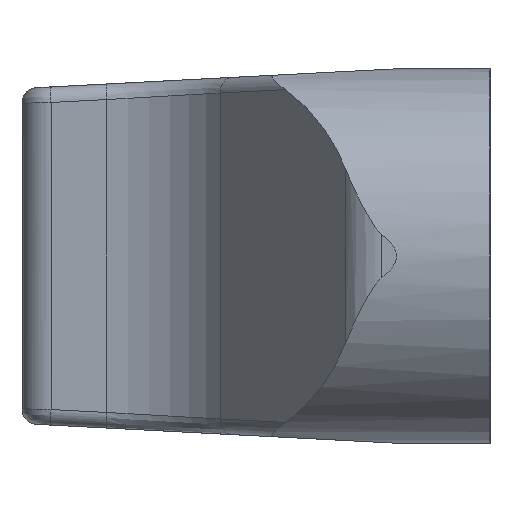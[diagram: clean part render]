
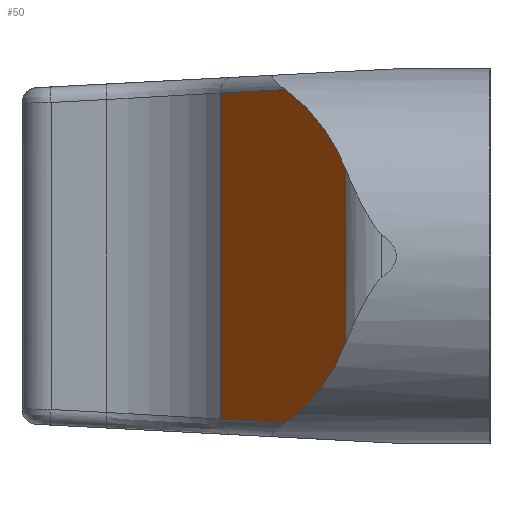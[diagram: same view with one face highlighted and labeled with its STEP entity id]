
A CAD part, left-side view. The second image highlights one B-rep face of the part: STEP entity #50.
In plain terms, the highlighted planar face has unit normal (-0.602, 0.798, 0).
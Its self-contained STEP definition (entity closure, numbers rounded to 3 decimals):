
#50 = ADVANCED_FACE ( 'NONE', ( #3988 ), #8096, .F. ) ;
#119 =( BOUNDED_CURVE ( )  B_SPLINE_CURVE ( 3, ( #11375, #7088, #5271, #11611 ),
 .UNSPECIFIED., .F., .T. ) 
 B_SPLINE_CURVE_WITH_KNOTS ( ( 4, 4 ),
 ( 0.481, 1.095 ),
 .UNSPECIFIED. ) 
 CURVE ( )  GEOMETRIC_REPRESENTATION_ITEM ( )  RATIONAL_B_SPLINE_CURVE ( ( 1., 0.969, 0.969, 1. ) ) 
 REPRESENTATION_ITEM ( '' )  );
#1353 = DIRECTION ( 'NONE',  ( 0.798, 0.602, 0.032 ) ) ;
#1481 = DIRECTION ( 'NONE',  ( 0.798, 0.602, 0. ) ) ;
#1498 = ORIENTED_EDGE ( 'NONE', *, *, #9023, .F. ) ;
#1556 = DIRECTION ( 'NONE',  ( 0.602, -0.798, 0. ) ) ;
#1702 = CARTESIAN_POINT ( 'NONE',  ( 12.05, 11.302, 12. ) ) ;
#2015 =( BOUNDED_CURVE ( )  B_SPLINE_CURVE ( 3, ( #11592, #4504, #2727, #9049 ),
 .UNSPECIFIED., .F., .T. ) 
 B_SPLINE_CURVE_WITH_KNOTS ( ( 4, 4 ),
 ( 5.188, 5.802 ),
 .UNSPECIFIED. ) 
 CURVE ( )  GEOMETRIC_REPRESENTATION_ITEM ( )  RATIONAL_B_SPLINE_CURVE ( ( 1., 0.969, 0.969, 1. ) ) 
 REPRESENTATION_ITEM ( '' )  );
#2421 = CARTESIAN_POINT ( 'NONE',  ( 12.05, 11.302, 12. ) ) ;
#2550 = VECTOR ( 'NONE', #4270, 1000. ) ;
#2727 = CARTESIAN_POINT ( 'NONE',  ( 2.516, 4.113, 7.764 ) ) ;
#2866 = EDGE_CURVE ( 'NONE', #11116, #6709, #8680, .T. ) ;
#3612 = VERTEX_POINT ( 'NONE', #11318 ) ;
#3620 = VECTOR ( 'NONE', #10301, 1000. ) ;
#3714 = EDGE_CURVE ( 'NONE', #11116, #3612, #9778, .T. ) ;
#3851 = VECTOR ( 'NONE', #8613, 1000. ) ;
#3988 = FACE_OUTER_BOUND ( 'NONE', #10855, .T. ) ;
#4270 = DIRECTION ( 'NONE',  ( 0., 0., -1. ) ) ;
#4443 = CARTESIAN_POINT ( 'NONE',  ( 12.05, 11.302, 10.448 ) ) ;
#4504 = CARTESIAN_POINT ( 'NONE',  ( 4.285, 5.447, 9.524 ) ) ;
#4882 = CARTESIAN_POINT ( 'NONE',  ( 1.361, 3.242, 12. ) ) ;
#5071 = CARTESIAN_POINT ( 'NONE',  ( 6.504, 7.12, 10.667 ) ) ;
#5271 = CARTESIAN_POINT ( 'NONE',  ( 4.285, 5.447, -9.524 ) ) ;
#5721 = ORIENTED_EDGE ( 'NONE', *, *, #8914, .F. ) ;
#6436 = CARTESIAN_POINT ( 'NONE',  ( 1.361, 3.242, 5.551 ) ) ;
#6600 = ORIENTED_EDGE ( 'NONE', *, *, #2866, .F. ) ;
#6687 = VERTEX_POINT ( 'NONE', #10484 ) ;
#6709 = VERTEX_POINT ( 'NONE', #5071 ) ;
#6762 = ORIENTED_EDGE ( 'NONE', *, *, #3714, .T. ) ;
#7088 = CARTESIAN_POINT ( 'NONE',  ( 2.516, 4.113, -7.764 ) ) ;
#7277 = EDGE_CURVE ( 'NONE', #7479, #6687, #119, .T. ) ;
#7479 = VERTEX_POINT ( 'NONE', #10965 ) ;
#7578 = ORIENTED_EDGE ( 'NONE', *, *, #7277, .F. ) ;
#7678 = CARTESIAN_POINT ( 'NONE',  ( 8.684, 8.764, -10.581 ) ) ;
#7708 = CARTESIAN_POINT ( 'NONE',  ( 12.026, 11.284, 10.449 ) ) ;
#7747 = LINE ( 'NONE', #7678, #10132 ) ;
#8096 = PLANE ( 'NONE',  #9017 ) ;
#8438 = LINE ( 'NONE', #4882, #3620 ) ;
#8613 = DIRECTION ( 'NONE',  ( -0.798, -0.602, 0.032 ) ) ;
#8680 = LINE ( 'NONE', #7708, #3851 ) ;
#8843 = ORIENTED_EDGE ( 'NONE', *, *, #9408, .F. ) ;
#8914 = EDGE_CURVE ( 'NONE', #6709, #10125, #2015, .T. ) ;
#9017 = AXIS2_PLACEMENT_3D ( 'NONE', #1702, #1556, #1481 ) ;
#9023 = EDGE_CURVE ( 'NONE', #6687, #3612, #7747, .T. ) ;
#9049 = CARTESIAN_POINT ( 'NONE',  ( 1.361, 3.242, 5.551 ) ) ;
#9408 = EDGE_CURVE ( 'NONE', #10125, #7479, #8438, .T. ) ;
#9778 = LINE ( 'NONE', #2421, #2550 ) ;
#10125 = VERTEX_POINT ( 'NONE', #6436 ) ;
#10132 = VECTOR ( 'NONE', #1353, 1000. ) ;
#10301 = DIRECTION ( 'NONE',  ( 0., 0., -1. ) ) ;
#10484 = CARTESIAN_POINT ( 'NONE',  ( 6.504, 7.12, -10.667 ) ) ;
#10855 = EDGE_LOOP ( 'NONE', ( #6762, #1498, #7578, #8843, #5721, #6600 ) ) ;
#10965 = CARTESIAN_POINT ( 'NONE',  ( 1.361, 3.242, -5.551 ) ) ;
#11116 = VERTEX_POINT ( 'NONE', #4443 ) ;
#11318 = CARTESIAN_POINT ( 'NONE',  ( 12.05, 11.302, -10.448 ) ) ;
#11375 = CARTESIAN_POINT ( 'NONE',  ( 1.361, 3.242, -5.551 ) ) ;
#11592 = CARTESIAN_POINT ( 'NONE',  ( 6.504, 7.12, 10.667 ) ) ;
#11611 = CARTESIAN_POINT ( 'NONE',  ( 6.504, 7.12, -10.667 ) ) ;
